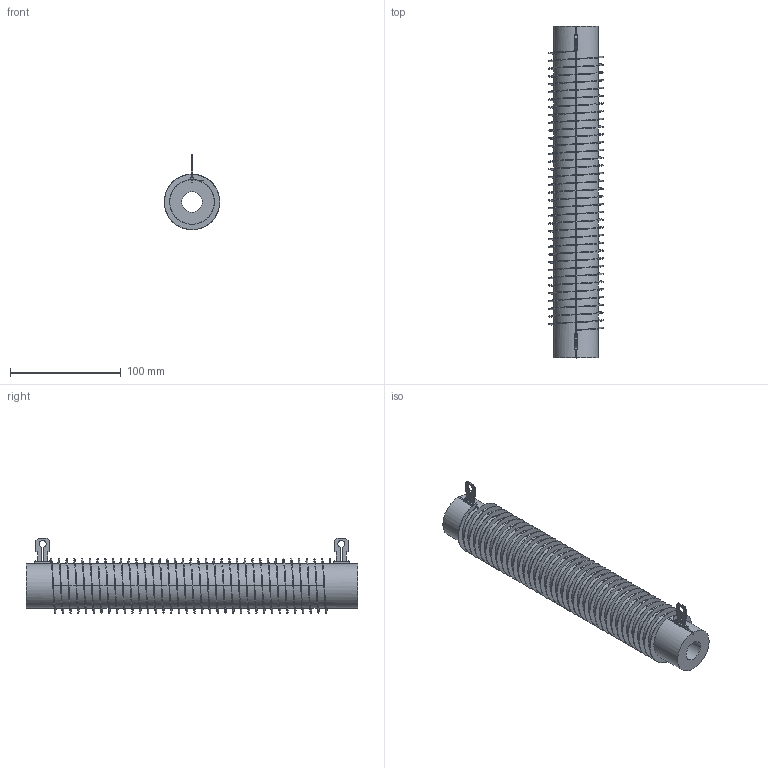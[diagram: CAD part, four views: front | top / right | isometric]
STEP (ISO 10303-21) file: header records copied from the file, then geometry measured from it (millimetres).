
FILE_DESCRIPTION(/* description */ (''),/* implementation_level */ '2;1');
FILE_NAME(/* name */ 'C:\_Vault\Dati\CATALOGO\RCPO-RSPO\RCPO-RSPO 500-1500\CPO0500.stp',/* time_stamp */ '2014-01-22T16:57:39+01:00',/* author */ ('stefano'),/* organization */ (''),/* preprocessor_version */ 'ST-DEVELOPER v15.2',/* originating_system */ 'Autodesk Inventor 2014',/* authorisation */ '');
FILE_SCHEMA (('AUTOMOTIVE_DESIGN { 1 0 10303 214 3 1 1 }'));
Length unit declared in the file: millimetre
Products named in the file (1): CPO0500
Bounding box: 50 x 300 x 68 mm (x, y, z)
Volume: 321000 mm3; surface area: 110706.4 mm2
Topology: 1 solids, 1 shells, 111 faces, 321 edges, 213 vertices
Faces by surface type: plane 66, cylinder 43, bspline 2
Full cylindrical faces by diameter (mm): 18.5 x1, 40.3 x36
Entity records: 8962 total; most frequent: CARTESIAN_POINT 6813, ORIENTED_EDGE 424, DIRECTION 393, EDGE_CURVE 211, LINE 171, VECTOR 171, VERTEX_POINT 141, AXIS2_PLACEMENT_3D 111
